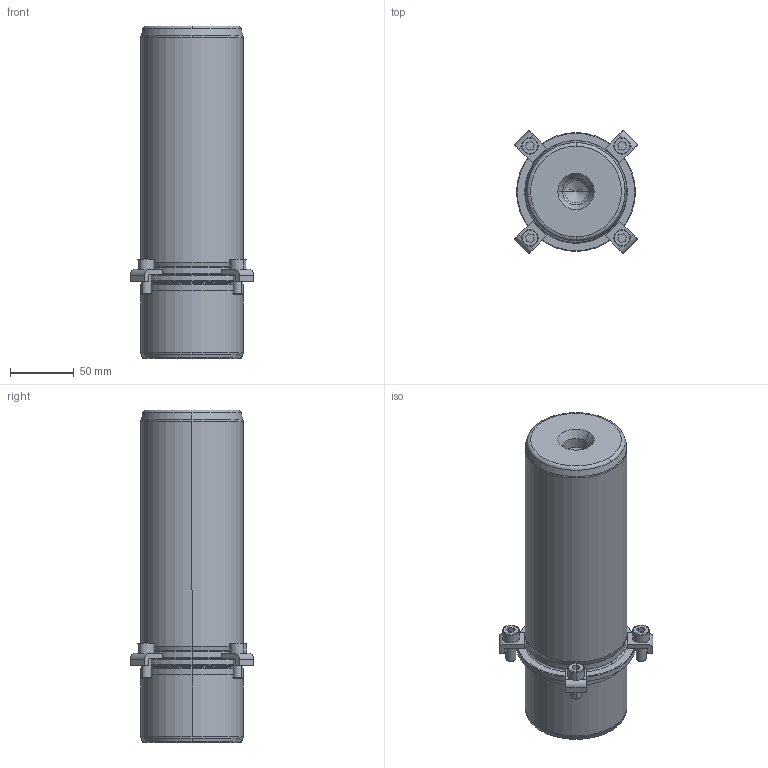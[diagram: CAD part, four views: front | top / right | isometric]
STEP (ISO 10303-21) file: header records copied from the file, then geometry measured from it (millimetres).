
FILE_DESCRIPTION((''),'2;1');
FILE_NAME('P21_080_200.stp','2008-12-19T11:24:54',(''),(''),'Mechanical Desktop 2009','Mechanical Desktop 2009',', , ');
FILE_SCHEMA(('CONFIG_CONTROL_DESIGN'));
Length unit declared in the file: millimetre
Products named in the file (2): Product; blmdl1
Assembly tree (1 placements, depth 2):
  Product
    blmdl1
Bounding box: 96.52 x 96.52 x 260 mm (x, y, z)
Volume: 1292443.8 mm3; surface area: 93193.1 mm2
Topology: 9 solids, 9 shells, 195 faces, 477 edges, 309 vertices
Faces by surface type: plane 77, cylinder 52, cone 34, torus 16, bspline 16
Entity records: 6547 total; most frequent: CARTESIAN_POINT 1683, DIRECTION 1078, ORIENTED_EDGE 946, EDGE_CURVE 473, AXIS2_PLACEMENT_3D 424, VERTEX_POINT 309, CIRCLE 243, VECTOR 230
